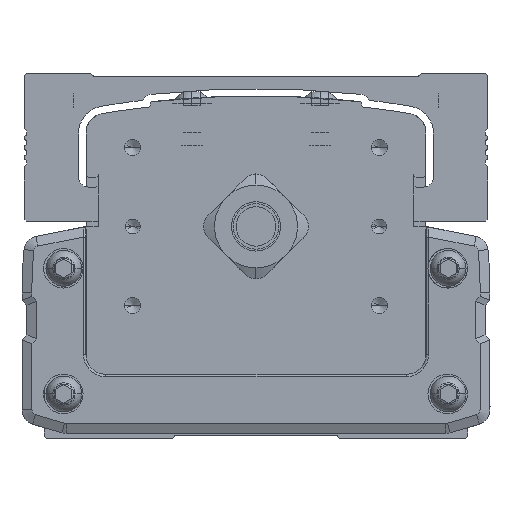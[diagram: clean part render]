
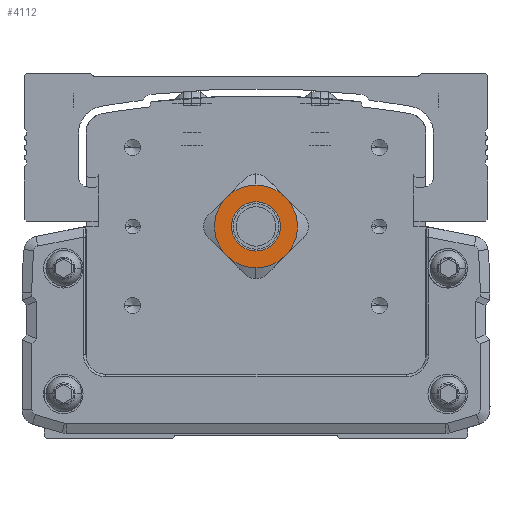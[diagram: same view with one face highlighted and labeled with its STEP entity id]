
A CAD part, front view. The second image highlights one B-rep face of the part: STEP entity #4112.
In plain terms, the highlighted planar face has unit normal (0, -1, 0).
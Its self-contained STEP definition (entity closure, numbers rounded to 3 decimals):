
#4112=ADVANCED_FACE('',(#9117,#9118),#9119,.F.);
#9117=FACE_OUTER_BOUND('',#15829,.T.);
#9118=FACE_BOUND('',#15830,.T.);
#9119=PLANE('',#15831);
#15829=EDGE_LOOP('',(#28522,#28523,#28524,#28525,#28526,#28527));
#15830=EDGE_LOOP('',(#28528,#28529));
#15831=AXIS2_PLACEMENT_3D('',#28530,#28531,#28532);
#28522=ORIENTED_EDGE('',*,*,#38355,.T.);
#28523=ORIENTED_EDGE('',*,*,#37232,.T.);
#28524=ORIENTED_EDGE('',*,*,#39515,.T.);
#28525=ORIENTED_EDGE('',*,*,#41714,.T.);
#28526=ORIENTED_EDGE('',*,*,#41715,.T.);
#28527=ORIENTED_EDGE('',*,*,#39355,.T.);
#28528=ORIENTED_EDGE('',*,*,#38909,.F.);
#28529=ORIENTED_EDGE('',*,*,#41716,.F.);
#28530=CARTESIAN_POINT('',(0.,-311.468,0.127));
#28531=DIRECTION('',(0.,1.0,0.));
#28532=DIRECTION('',(0.,0.0,1.0));
#37232=EDGE_CURVE('',#44262,#44364,#44367,.T.);
#38355=EDGE_CURVE('',#44152,#44262,#46346,.T.);
#38909=EDGE_CURVE('',#47272,#47268,#47274,.T.);
#39355=EDGE_CURVE('',#48029,#44152,#48032,.T.);
#39515=EDGE_CURVE('',#44364,#48282,#48284,.T.);
#41714=EDGE_CURVE('',#48282,#49542,#51464,.T.);
#41715=EDGE_CURVE('',#49542,#48029,#51465,.T.);
#41716=EDGE_CURVE('',#47268,#47272,#51466,.T.);
#44152=VERTEX_POINT('',#54409);
#44262=VERTEX_POINT('',#54599);
#44364=VERTEX_POINT('',#54766);
#44367=CIRCLE('',#54770,8.413);
#46346=CIRCLE('',#57801,8.413);
#47268=VERTEX_POINT('',#59382);
#47272=VERTEX_POINT('',#59387);
#47274=CIRCLE('',#59390,4.625);
#48029=VERTEX_POINT('',#60439);
#48032=CIRCLE('',#60460,8.413);
#48282=VERTEX_POINT('',#60821);
#48284=CIRCLE('',#60834,8.413);
#49542=VERTEX_POINT('',#62638);
#51464=CIRCLE('',#65506,8.413);
#51465=CIRCLE('',#65507,8.413);
#51466=CIRCLE('',#65508,4.625);
#54409=CARTESIAN_POINT('',(5.949,-311.468,-5.949));
#54599=CARTESIAN_POINT('',(5.949,-311.468,5.949));
#54766=CARTESIAN_POINT('',(0.,-311.468,8.412));
#54770=AXIS2_PLACEMENT_3D('',#69887,#69888,#69889);
#57801=AXIS2_PLACEMENT_3D('',#71159,#71160,#71161);
#59382=CARTESIAN_POINT('',(0.,-311.468,-4.625));
#59387=CARTESIAN_POINT('',(0.,-311.468,4.625));
#59390=AXIS2_PLACEMENT_3D('',#71869,#71870,#71871);
#60439=CARTESIAN_POINT('',(0.,-311.468,-8.413));
#60460=AXIS2_PLACEMENT_3D('',#72516,#72517,#72518);
#60821=CARTESIAN_POINT('',(-5.949,-311.468,5.949));
#60834=AXIS2_PLACEMENT_3D('',#72697,#72698,#72699);
#62638=CARTESIAN_POINT('',(-5.949,-311.468,-5.949));
#65506=AXIS2_PLACEMENT_3D('',#75222,#75223,#75224);
#65507=AXIS2_PLACEMENT_3D('',#75225,#75226,#75227);
#65508=AXIS2_PLACEMENT_3D('',#75228,#75229,#75230);
#69887=CARTESIAN_POINT('',(0.,-311.468,0.));
#69888=DIRECTION('',(0.,-1.0,0.));
#69889=DIRECTION('',(0.,0.0,1.0));
#71159=CARTESIAN_POINT('',(0.,-311.468,0.));
#71160=DIRECTION('',(0.,-1.0,0.));
#71161=DIRECTION('',(0.,0.0,1.0));
#71869=CARTESIAN_POINT('',(0.,-311.468,0.));
#71870=DIRECTION('',(0.,-1.0,0.));
#71871=DIRECTION('',(0.,0.0,-1.0));
#72516=CARTESIAN_POINT('',(0.,-311.468,0.));
#72517=DIRECTION('',(0.,-1.0,0.));
#72518=DIRECTION('',(0.,0.0,1.0));
#72697=CARTESIAN_POINT('',(0.,-311.468,0.));
#72698=DIRECTION('',(0.,-1.0,0.));
#72699=DIRECTION('',(0.,0.0,1.0));
#75222=CARTESIAN_POINT('',(0.,-311.468,0.));
#75223=DIRECTION('',(0.,-1.0,0.));
#75224=DIRECTION('',(0.,0.0,1.0));
#75225=CARTESIAN_POINT('',(0.,-311.468,0.));
#75226=DIRECTION('',(0.,-1.0,0.));
#75227=DIRECTION('',(0.,0.0,1.0));
#75228=CARTESIAN_POINT('',(0.,-311.468,0.));
#75229=DIRECTION('',(0.,-1.0,0.));
#75230=DIRECTION('',(0.,0.0,-1.0));
